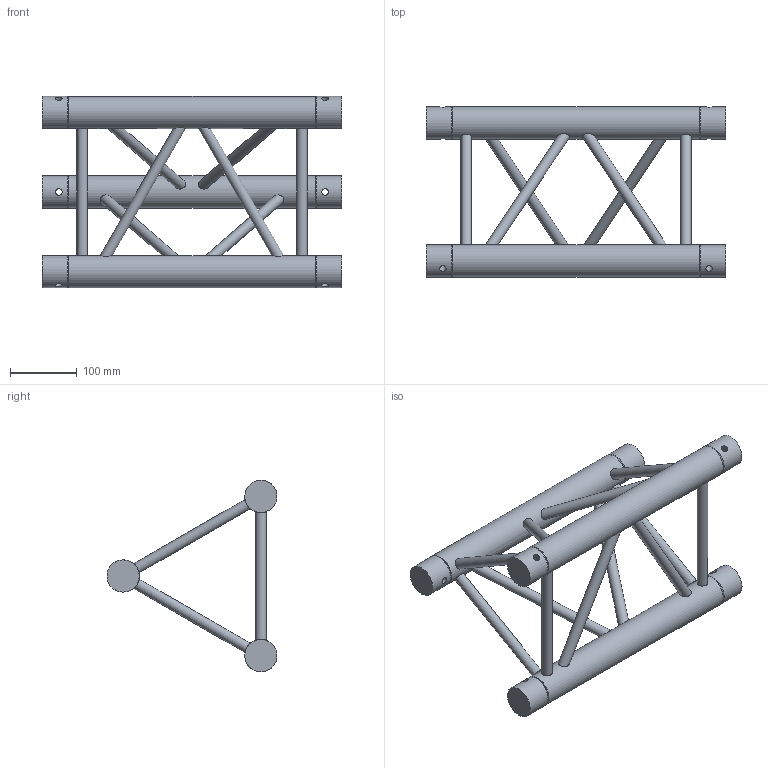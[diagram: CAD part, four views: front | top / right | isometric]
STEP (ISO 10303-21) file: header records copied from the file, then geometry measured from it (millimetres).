
FILE_DESCRIPTION(/* description */ (''),/* implementation_level */ '2;1');
FILE_NAME(/* name */ 'M:\Symbolen_NIEUW\STP\30-er truss\111050777.stp',/* time_stamp */ '2015-05-29T17:02:32+02:00',/* author */ ('Sietse'),/* organization */ (''),/* preprocessor_version */ 'ST-DEVELOPER v15.6',/* originating_system */ 'Autodesk Inventor 2015',/* authorisation */ '');
FILE_SCHEMA (('AUTOMOTIVE_DESIGN { 1 0 10303 214 3 1 1 }'));
Length unit declared in the file: millimetre
Products named in the file (1): 160024338
Bounding box: 450 x 255.28 x 287.3 mm (x, y, z)
Volume: 2945739.7 mm3; surface area: 353102.1 mm2
Topology: 9 solids, 9 shells, 87 faces, 183 edges, 114 vertices
Faces by surface type: plane 48, cylinder 33, cone 6
Full cylindrical faces by diameter (mm): 10 x6, 16 x12, 48.3 x9
Entity records: 2872 total; most frequent: CARTESIAN_POINT 1154, DIRECTION 320, ORIENTED_EDGE 264, EDGE_LOOP 156, AXIS2_PLACEMENT_3D 154, EDGE_CURVE 120, VERTEX_POINT 96, STYLED_ITEM 82
